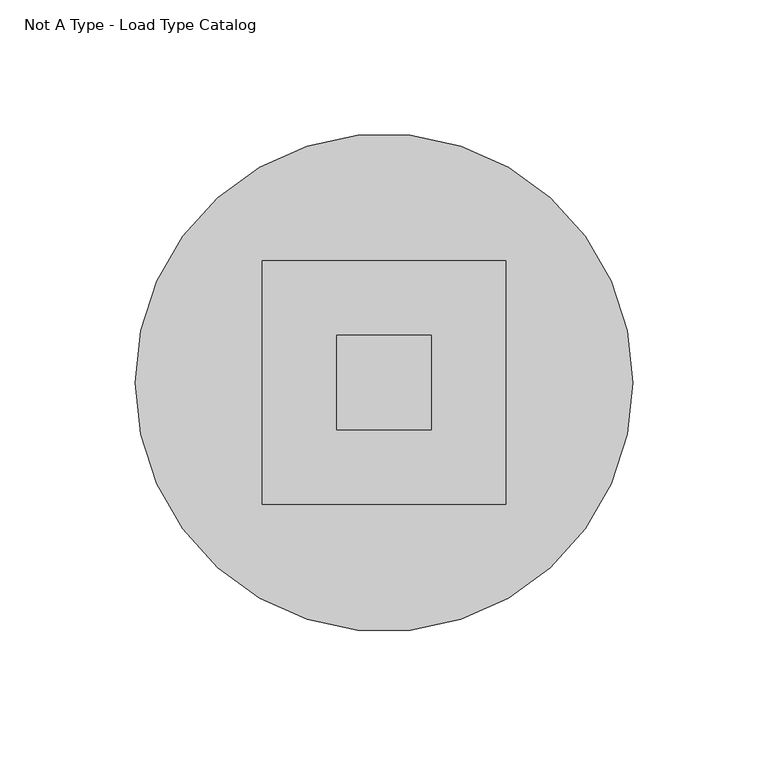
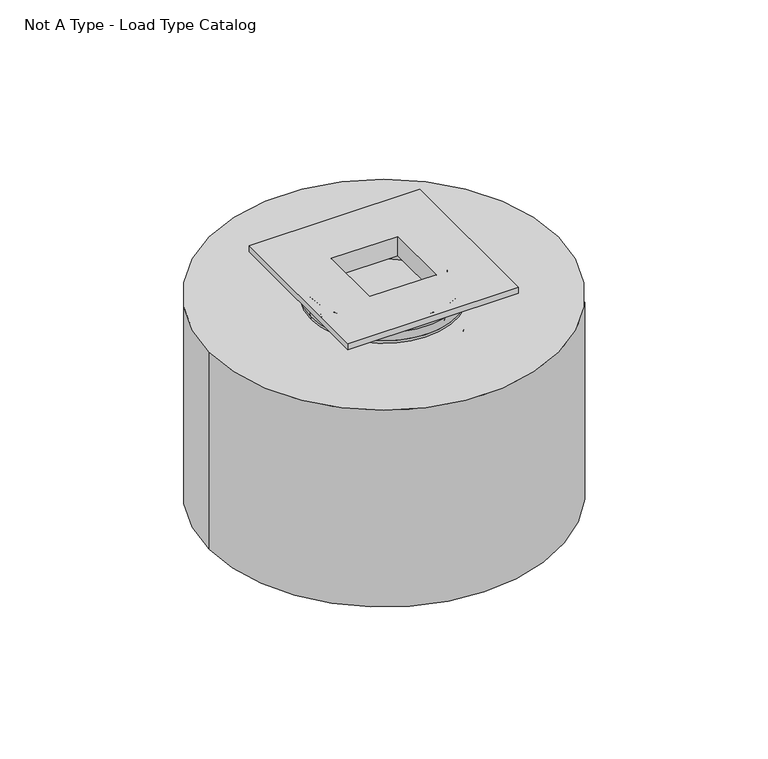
"""IFC4 building model written with IfcOpenShell, lengths in millimetres: flow terminal geometry, Lighting_Ceiling-Mounted_Lucent_Square_Edge_90 : Not A Type - Load Type Catalog."""

from ifc_helpers import new_model, si_unit, point, frame, origin, origin_2d, place, context, project, spatial, polyline, circle_curve, ellipse_curve, trimmed, segment, composite_curve, outline, extrude, faceted_brep, source, transform, mapped, element, save
from ifc_brep_helpers import plane_surface, cylinder_surface, revolved_surface, advanced_brep


def not_a_type_load_type_catalog_b4710a2c(model_context):
    return source(origin(), model_context, "Body", "SolidModel", [
        advanced_brep(
        [(-23.4724039, 0.0, -22.8655633), (23.4724039, 0.0, -22.8655633), (26.5, 0.0, -22.8655633), (-26.5, 0.0, -22.8655633), (-23.4724039, 0.0, -23.8655633), (23.4724039, 0.0, -23.8655633), (-25.5, 0.0, -23.8655633), (25.5, 0.0, -23.8655633), (-25.5, 0.0, -35.4), (25.5, 0.0, -35.4), (-26.95, 0.0, -35.4), (26.95, 0.0, -35.4), (-26.95, 0.0, -23.8655633), (26.95, 0.0, -23.8655633), (-38.4932571, 0.0, -23.3812343), (38.4932571, 0.0, -23.3812343), (37.1922508, 0.0, -27.9271739), (-37.1922508, 0.0, -27.9271739), (-38.4932571, 0.0, -11.6295756), (38.4932571, 0.0, -11.6295756), (-38.496505, 0.0, -7.1468124), (38.496505, 0.0, -7.1468124), (-38.496505, 0.0, -1.3969603), (38.496505, 0.0, -1.3969603), (-39.4934653, 0.0, -0.4), (39.4934653, 0.0, -0.4), (-43.5, 0.0, -0.4), (43.5, 0.0, -0.4), (-43.5, 0.0, 0.6), (43.5, 0.0, 0.6), (-29.0363195, 0.0, 0.6), (29.0363196, 0.0, 0.6), (-35.9998111, 0.0, -0.4), (35.9998111, 0.0, -0.4), (30.0103321, 0.0, -0.4), (-30.0103321, 0.0, -0.4), (-35.9998111, 0.0, -24.4), (35.9998111, 0.0, -24.4), (-37.4215064, 0.0, -24.4), (37.4215064, 0.0, -24.4), (-36.3566832, 0.0, -27.4050533), (36.3566832, 0.0, -27.4050533), (-30.0103321, 0.0, -23.8655633), (30.0103321, 0.0, -23.8655633), (-29.0363195, 0.0, -20.3292437), (29.0363196, 0.0, -20.3292437)],
        [
            (0, 1, circle_curve(frame((0.0, 0.0, -22.8655633), z_axis=(0.0, 0.0, -1.0), x_axis=(1.0, 0.0, 0.0)), 23.4724039)),
            (1, 2),
            (2, 3, circle_curve(frame((0.0, 0.0, -22.8655633), z_axis=(0.0, 0.0, 1.0), x_axis=(1.0, 0.0, 0.0)), 26.5)),
            (3, 0),
            (1, 0, circle_curve(frame((0.0, 0.0, -22.8655633), z_axis=(0.0, 0.0, -1.0), x_axis=(1.0, 0.0, 0.0)), 23.4724039)),
            (3, 2, circle_curve(frame((0.0, 0.0, -22.8655633), z_axis=(0.0, 0.0, 1.0), x_axis=(1.0, 0.0, 0.0)), 26.5)),
            (4, 5, circle_curve(frame((0.0, 0.0, -23.8655633), z_axis=(0.0, 0.0, -1.0), x_axis=(1.0, 0.0, 0.0)), 23.4724039)),
            (5, 1),
            (0, 4),
            (5, 4, circle_curve(frame((0.0, 0.0, -23.8655633), z_axis=(0.0, 0.0, -1.0), x_axis=(1.0, 0.0, 0.0)), 23.4724039)),
            (6, 7, circle_curve(frame((0.0, 0.0, -23.8655633), z_axis=(0.0, 0.0, -1.0), x_axis=(1.0, 0.0, 0.0)), 25.5)),
            (7, 5),
            (4, 6),
            (7, 6, circle_curve(frame((0.0, 0.0, -23.8655633), z_axis=(0.0, 0.0, -1.0), x_axis=(1.0, 0.0, 0.0)), 25.5)),
            (8, 9, circle_curve(frame((0.0, 0.0, -35.4), z_axis=(0.0, 0.0, -1.0), x_axis=(1.0, 0.0, 0.0)), 25.5)),
            (9, 7),
            (6, 8),
            (9, 8, circle_curve(frame((0.0, 0.0, -35.4), z_axis=(0.0, 0.0, -1.0), x_axis=(1.0, 0.0, 0.0)), 25.5)),
            (10, 11, circle_curve(frame((0.0, 0.0, -35.4), z_axis=(0.0, 0.0, -1.0), x_axis=(1.0, 0.0, 0.0)), 26.95)),
            (11, 9),
            (8, 10),
            (11, 10, circle_curve(frame((0.0, 0.0, -35.4), z_axis=(0.0, 0.0, -1.0), x_axis=(1.0, 0.0, 0.0)), 26.95)),
            (12, 13, circle_curve(frame((0.0, 0.0, -23.8655633), z_axis=(0.0, 0.0, -1.0), x_axis=(1.0, 0.0, 0.0)), 26.95)),
            (13, 11),
            (10, 12),
            (13, 12, circle_curve(frame((0.0, 0.0, -23.8655633), z_axis=(0.0, 0.0, -1.0), x_axis=(1.0, 0.0, 0.0)), 26.95)),
            (14, 15, circle_curve(frame((0.0, 0.0, -23.3812343), z_axis=(0.0, 0.0, -1.0), x_axis=(1.0, 0.0, 0.0)), 38.4932571)),
            (15, 16, circle_curve(frame((29.9006074, 0.0, -23.3812343), z_axis=(0.0, 1.0, 0.0), x_axis=(1.0, 0.0, 0.0)), 8.5926498)),
            (16, 17, circle_curve(frame((0.0, 0.0, -27.9271739), z_axis=(0.0, 0.0, 1.0), x_axis=(1.0, 0.0, 0.0)), 37.1922508)),
            (17, 14, circle_curve(frame((-29.9006074, 0.0, -23.3812343), z_axis=(0.0, 1.0, 0.0), x_axis=(-1.0, 0.0, 0.0)), 8.5926498)),
            (15, 14, circle_curve(frame((0.0, 0.0, -23.3812343), z_axis=(0.0, 0.0, -1.0), x_axis=(1.0, 0.0, 0.0)), 38.4932571)),
            (17, 16, circle_curve(frame((0.0, 0.0, -27.9271739), z_axis=(0.0, 0.0, 1.0), x_axis=(1.0, 0.0, 0.0)), 37.1922508)),
            (18, 19, circle_curve(frame((0.0, 0.0, -11.6295756), z_axis=(0.0, 0.0, -1.0), x_axis=(1.0, 0.0, 0.0)), 38.4932571)),
            (19, 15),
            (14, 18),
            (19, 18, circle_curve(frame((0.0, 0.0, -11.6295756), z_axis=(0.0, 0.0, -1.0), x_axis=(1.0, 0.0, 0.0)), 38.4932571)),
            (20, 21, circle_curve(frame((0.0, 0.0, -7.1468124), z_axis=(0.0, 0.0, -1.0), x_axis=(1.0, 0.0, 0.0)), 38.496505)),
            (21, 19, circle_curve(frame((33.8084064, 0.0, -9.3847986), z_axis=(0.0, 1.0, 0.0), x_axis=(1.0, 0.0, 0.0)), 5.194887)),
            (18, 20, circle_curve(frame((-33.8084064, 0.0, -9.3847986), z_axis=(0.0, 1.0, 0.0), x_axis=(-1.0, 0.0, 0.0)), 5.194887)),
            (21, 20, circle_curve(frame((0.0, 0.0, -7.1468124), z_axis=(0.0, 0.0, -1.0), x_axis=(1.0, 0.0, 0.0)), 38.496505)),
            (22, 23, circle_curve(frame((0.0, 0.0, -1.3969603), z_axis=(0.0, 0.0, -1.0), x_axis=(1.0, 0.0, 0.0)), 38.496505)),
            (23, 21),
            (20, 22),
            (23, 22, circle_curve(frame((0.0, 0.0, -1.3969603), z_axis=(0.0, 0.0, -1.0), x_axis=(1.0, 0.0, 0.0)), 38.496505)),
            (24, 25, circle_curve(frame((0.0, 0.0, -0.4), z_axis=(0.0, 0.0, -1.0), x_axis=(1.0, 0.0, 0.0)), 39.4934653)),
            (25, 23, circle_curve(frame((39.4934653, 0.0, -1.3969603), z_axis=(0.0, -1.0, 0.0), x_axis=(1.0, 0.0, 0.0)), 0.9969603)),
            (22, 24, circle_curve(frame((-39.4934653, 0.0, -1.3969603), z_axis=(0.0, -1.0, 0.0), x_axis=(-1.0, 0.0, 0.0)), 0.9969603)),
            (25, 24, circle_curve(frame((0.0, 0.0, -0.4), z_axis=(0.0, 0.0, -1.0), x_axis=(1.0, 0.0, 0.0)), 39.4934653)),
            (26, 27, circle_curve(frame((0.0, 0.0, -0.4), z_axis=(0.0, 0.0, -1.0), x_axis=(1.0, 0.0, 0.0)), 43.5)),
            (27, 25),
            (24, 26),
            (27, 26, circle_curve(frame((0.0, 0.0, -0.4), z_axis=(0.0, 0.0, -1.0), x_axis=(1.0, 0.0, 0.0)), 43.5)),
            (28, 29, circle_curve(frame((0.0, 0.0, 0.6), z_axis=(0.0, 0.0, -1.0), x_axis=(1.0, 0.0, 0.0)), 43.5)),
            (29, 27),
            (26, 28),
            (29, 28, circle_curve(frame((0.0, 0.0, 0.6), z_axis=(0.0, 0.0, -1.0), x_axis=(1.0, 0.0, 0.0)), 43.5)),
            (30, 31, circle_curve(frame((0.0, 0.0, 0.6), z_axis=(0.0, 0.0, -1.0), x_axis=(1.0, 0.0, 0.0)), 29.0363195)),
            (31, 29),
            (28, 30),
            (31, 30, circle_curve(frame((0.0, 0.0, 0.6), z_axis=(0.0, 0.0, -1.0), x_axis=(1.0, 0.0, 0.0)), 29.0363195)),
            (32, 33, circle_curve(frame((0.0, 0.0, -0.4), z_axis=(0.0, 0.0, -1.0), x_axis=(1.0, 0.0, 0.0)), 35.9998111)),
            (33, 34),
            (34, 35, circle_curve(frame((0.0, 0.0, -0.4), z_axis=(0.0, 0.0, 1.0), x_axis=(1.0, 0.0, 0.0)), 30.0103321)),
            (35, 32),
            (33, 32, circle_curve(frame((0.0, 0.0, -0.4), z_axis=(0.0, 0.0, -1.0), x_axis=(1.0, 0.0, 0.0)), 35.9998111)),
            (35, 34, circle_curve(frame((0.0, 0.0, -0.4), z_axis=(0.0, 0.0, 1.0), x_axis=(1.0, 0.0, 0.0)), 30.0103321)),
            (36, 37, circle_curve(frame((0.0, 0.0, -24.4), z_axis=(0.0, 0.0, -1.0), x_axis=(1.0, 0.0, 0.0)), 35.9998111)),
            (37, 33),
            (32, 36),
            (37, 36, circle_curve(frame((0.0, 0.0, -24.4), z_axis=(0.0, 0.0, -1.0), x_axis=(1.0, 0.0, 0.0)), 35.9998111)),
            (38, 39, circle_curve(frame((0.0, 0.0, -24.4), z_axis=(0.0, 0.0, -1.0), x_axis=(1.0, 0.0, 0.0)), 37.4215064)),
            (39, 37),
            (36, 38),
            (39, 38, circle_curve(frame((0.0, 0.0, -24.4), z_axis=(0.0, 0.0, -1.0), x_axis=(1.0, 0.0, 0.0)), 37.4215064)),
            (40, 41, circle_curve(frame((0.0, 0.0, -27.4050533), z_axis=(0.0, 0.0, -1.0), x_axis=(1.0, 0.0, 0.0)), 36.3566832)),
            (41, 39, circle_curve(frame((29.9719685, 0.0, -23.451483), z_axis=(0.0, -1.0, 0.0), x_axis=(1.0, 0.0, 0.0)), 7.5096805)),
            (38, 40, circle_curve(frame((-29.9719685, 0.0, -23.451483), z_axis=(0.0, -1.0, 0.0), x_axis=(-1.0, 0.0, 0.0)), 7.5096805)),
            (41, 40, circle_curve(frame((0.0, 0.0, -27.4050533), z_axis=(0.0, 0.0, -1.0), x_axis=(1.0, 0.0, 0.0)), 36.3566832)),
            (16, 41),
            (40, 17),
            (42, 43, circle_curve(frame((0.0, 0.0, -23.8655633), z_axis=(0.0, 0.0, -1.0), x_axis=(1.0, 0.0, 0.0)), 30.0103321)),
            (43, 13),
            (12, 42),
            (43, 42, circle_curve(frame((0.0, 0.0, -23.8655633), z_axis=(0.0, 0.0, -1.0), x_axis=(1.0, 0.0, 0.0)), 30.0103321)),
            (34, 43),
            (42, 35),
            (44, 45, circle_curve(frame((0.0, 0.0, -20.3292437), z_axis=(0.0, 0.0, -1.0), x_axis=(1.0, 0.0, 0.0)), 29.0363195)),
            (45, 31),
            (30, 44),
            (45, 44, circle_curve(frame((0.0, 0.0, -20.3292437), z_axis=(0.0, 0.0, -1.0), x_axis=(1.0, 0.0, 0.0)), 29.0363195)),
            (2, 45, circle_curve(frame((26.5, 0.0, -20.3292437), z_axis=(0.0, -1.0, 0.0), x_axis=(1.0, 0.0, 0.0)), 2.5363195)),
            (44, 3, circle_curve(frame((-26.5, 0.0, -20.3292437), z_axis=(0.0, -1.0, 0.0), x_axis=(-1.0, 0.0, 0.0)), 2.5363195)),
        ],
        [
            plane_surface(frame((0.0, 0.0, -22.8655633), z_axis=(0.0, 0.0, 1.0), x_axis=(1.0, 0.0, 0.0))),
            revolved_surface(polyline([(23.4724039, 0.0, -22.8655633), (23.4724039, 0.0, -23.8655633)]), (0.0, 0.0, 26.7117569), (0.0, 0.0, 1.0)),
            plane_surface(frame((0.0, 0.0, -23.8655633), z_axis=(0.0, 0.0, -1.0), x_axis=(1.0, 0.0, 0.0))),
            revolved_surface(polyline([(25.5, 0.0, -23.8655633), (25.5, 0.0, -35.400000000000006)]), (0.0, 0.0, 26.7117569), (0.0, 0.0, 1.0)),
            plane_surface(frame((0.0, 0.0, -35.4), z_axis=(0.0, 0.0, -1.0), x_axis=(1.0, 0.0, 0.0))),
            cylinder_surface(frame((0.0, 0.0, 26.7117569), z_axis=(0.0, 0.0, 1.0), x_axis=(1.0, 0.0, 0.0)), 26.95),
            revolved_surface(trimmed(ellipse_curve(frame((29.9006074, 0.0, -23.3812343), z_axis=(0.0, -1.0, 0.0), x_axis=(1.0, 0.0, 0.0)), 8.5926498, 8.5926498), [point((37.1922508, 0.0, -27.9271739))], [point((38.4932571, 0.0, -23.3812343))], True, "CARTESIAN"), (0.0, 0.0, 26.7117569), (0.0, 0.0, 1.0)),
            cylinder_surface(frame((0.0, 0.0, 26.7117569), z_axis=(0.0, 0.0, 1.0), x_axis=(1.0, 0.0, 0.0)), 38.4932571),
            revolved_surface(trimmed(ellipse_curve(frame((33.8084064, 0.0, -9.3847986), z_axis=(0.0, -1.0, 0.0), x_axis=(1.0, 0.0, 0.0)), 5.194887, 5.194887), [point((38.4932571, 0.0, -11.6295756))], [point((38.496505, 0.0, -7.1468124))], True, "CARTESIAN"), (0.0, 0.0, 26.7117569), (0.0, 0.0, 1.0)),
            cylinder_surface(frame((0.0, 0.0, 26.7117569), z_axis=(0.0, 0.0, 1.0), x_axis=(1.0, 0.0, 0.0)), 38.496505),
            revolved_surface(trimmed(ellipse_curve(frame((39.4934653, 0.0, -1.3969603), z_axis=(0.0, 1.0, 0.0), x_axis=(1.0, 0.0, 0.0)), 0.9969603, 0.9969603), [point((38.496505, 0.0, -1.3969603))], [point((39.4934653, 0.0, -0.4))], True, "CARTESIAN"), (0.0, 0.0, 26.7117569), (0.0, 0.0, 1.0)),
            plane_surface(frame((0.0, 0.0, -0.4), z_axis=(0.0, 0.0, -1.0), x_axis=(1.0, 0.0, 0.0))),
            cylinder_surface(frame((0.0, 0.0, 26.7117569), z_axis=(0.0, 0.0, 1.0), x_axis=(1.0, 0.0, 0.0)), 43.5),
            plane_surface(frame((0.0, 0.0, 0.6), z_axis=(0.0, 0.0, 1.0), x_axis=(1.0, 0.0, 0.0))),
            revolved_surface(polyline([(35.9998111, 0.0, -0.3999999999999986), (35.9998111, 0.0, -24.400000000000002)]), (0.0, 0.0, 26.7117569), (0.0, 0.0, 1.0)),
            plane_surface(frame((0.0, 0.0, -24.4), z_axis=(0.0, 0.0, -1.0), x_axis=(1.0, 0.0, 0.0))),
            revolved_surface(trimmed(ellipse_curve(frame((29.9719685, 0.0, -23.451483), z_axis=(0.0, 1.0, 0.0), x_axis=(1.0, 0.0, 0.0)), 7.5096805, 7.5096805), [point((37.4215064, 0.0, -24.4))], [point((36.3566832, 0.0, -27.4050533))], True, "CARTESIAN"), (0.0, 0.0, 26.7117569), (0.0, 0.0, 1.0)),
            revolved_surface(polyline([(36.3566832, 0.0, -27.4050533), (37.1922508, 0.0, -27.9271739)]), (0.0, 0.0, 26.7117569), (0.0, 0.0, 1.0)),
            cylinder_surface(frame((0.0, 0.0, 26.7117569), z_axis=(0.0, 0.0, 1.0), x_axis=(1.0, 0.0, 0.0)), 30.0103321),
            revolved_surface(polyline([(29.0363195, 0.0, 0.6000000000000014), (29.0363195, 0.0, -20.329243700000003)]), (0.0, 0.0, 26.7117569), (0.0, 0.0, 1.0)),
            revolved_surface(trimmed(ellipse_curve(frame((26.5, 0.0, -20.3292437), z_axis=(0.0, 1.0, 0.0), x_axis=(1.0, 0.0, 0.0)), 2.5363195, 2.5363195), [point((29.0363196, 0.0, -20.3292437))], [point((26.5, 0.0, -22.8655633))], True, "CARTESIAN"), (0.0, 0.0, 26.7117569), (0.0, 0.0, 1.0)),
        ],
        [
            (0, [[1, 2, 3, 4]]),
            (0, [[5, -4, 6, -2]]),
            (1, [[7, 8, -1, 9]]),
            (1, [[10, -9, -5, -8]]),
            (2, [[11, 12, -7, 13]]),
            (2, [[14, -13, -10, -12]]),
            (3, [[15, 16, -11, 17]]),
            (3, [[18, -17, -14, -16]]),
            (4, [[19, 20, -15, 21]]),
            (4, [[22, -21, -18, -20]]),
            (5, [[23, 24, -19, 25]]),
            (5, [[26, -25, -22, -24]]),
            (6, [[27, 28, 29, 30]]),
            (6, [[31, -30, 32, -28]]),
            (7, [[33, 34, -27, 35]]),
            (7, [[36, -35, -31, -34]]),
            (8, [[37, 38, -33, 39]]),
            (8, [[40, -39, -36, -38]]),
            (9, [[41, 42, -37, 43]]),
            (9, [[44, -43, -40, -42]]),
            (10, [[45, 46, -41, 47]]),
            (10, [[48, -47, -44, -46]]),
            (11, [[49, 50, -45, 51]]),
            (11, [[52, -51, -48, -50]]),
            (12, [[53, 54, -49, 55]]),
            (12, [[56, -55, -52, -54]]),
            (13, [[57, 58, -53, 59]]),
            (13, [[60, -59, -56, -58]]),
            (11, [[61, 62, 63, 64]]),
            (11, [[65, -64, 66, -62]]),
            (14, [[67, 68, -61, 69]]),
            (14, [[70, -69, -65, -68]]),
            (15, [[71, 72, -67, 73]]),
            (15, [[74, -73, -70, -72]]),
            (16, [[75, 76, -71, 77]]),
            (16, [[78, -77, -74, -76]]),
            (17, [[-29, 79, -75, 80]]),
            (17, [[-32, -80, -78, -79]]),
            (2, [[81, 82, -23, 83]]),
            (2, [[84, -83, -26, -82]]),
            (18, [[-63, 85, -81, 86]]),
            (18, [[-66, -86, -84, -85]]),
            (19, [[87, 88, -57, 89]]),
            (19, [[90, -89, -60, -88]]),
            (20, [[-3, 91, -87, 92]]),
            (20, [[-6, -92, -90, -91]]),
        ],
    ),
        extrude(outline(composite_curve([segment(trimmed(circle_curve(origin_2d(), 92.0), [point((-92.0, 0.0))], [point((92.0, 0.0))], False, "CARTESIAN"), True, "CONTINUOUS"), segment(trimmed(circle_curve(origin_2d(), 92.0), [point((92.0, 0.0))], [point((-92.0, 0.0))], False, "CARTESIAN"), True, "CONTINUOUS")], self_intersect=False)), frame((0.0, 0.0, -122.7), z_axis=(0.0, 0.0, 1.0), x_axis=(1.0, 0.0, 0.0)), (0.0, 0.0, 1.0), 110.0),
        faceted_brep([(20.5015906, 20.5, -7.68125), (20.5015906, -20.5, -7.68125), (-20.5015906, -20.5, -7.68125), (-20.5015906, 20.5, -7.68125), (17.5, 17.5, -7.68125), (-17.5, 17.5, -7.68125), (-17.5, -17.5, -7.68125), (17.5, -17.5, -7.68125), (17.5, -17.5, 3.0), (17.5, 17.5, 3.0), (-17.5, -17.5, 3.0), (-17.5, 17.5, 3.0), (-20.5015906, 20.5, -0.4), (20.5015906, 20.5, -0.4), (-20.5015906, -20.5, -0.4), (20.5015906, -20.5, -0.4), (-45.0, 45.0, 3.0), (-45.0, -45.0, 3.0), (45.0, -45.0, 3.0), (45.0, 45.0, 3.0), (-45.0, 45.0, -0.4), (45.0, 45.0, -0.4), (45.0, -45.0, -0.4), (-45.0, -45.0, -0.4)], [[[0, 1, 2, 3], [4, 5, 6, 7]], [[4, 7, 8, 9]], [[8, 7, 6, 10]], [[10, 6, 5, 11]], [[11, 5, 4, 9]], [[0, 3, 12, 13]], [[3, 2, 14, 12]], [[2, 1, 15, 14]], [[1, 0, 13, 15]], [[16, 17, 18, 19], [11, 9, 8, 10]], [[20, 21, 22, 23], [13, 12, 14, 15]], [[17, 16, 20, 23]], [[18, 17, 23, 22]], [[19, 18, 22, 21]], [[16, 19, 21, 20]]]),
    ])


if __name__ == "__main__":
    model = new_model("IFC4")
    model_context = context("Model", 3, world=origin())
    ifc_project = project(units=[si_unit("LENGTHUNIT", "METRE", prefix="MILLI")], contexts=[model_context])
    site = spatial("IfcSite", under=ifc_project)
    building = spatial("IfcBuilding", under=site)
    placement = place(None, origin())
    not_a_type_load_type_catalog_shape = not_a_type_load_type_catalog_b4710a2c(model_context)
    element("IfcFlowTerminal", 1, ObjectType="Lighting_Ceiling-Mounted_Lucent_Square_Edge_90 : Not A Type - Load Type Catalog", at=placement, inside=building, context=model_context, shape_type="MappedRepresentation", body=[
        mapped(not_a_type_load_type_catalog_shape, transform((0.0, 0.0, 0.0), x_axis=(1.0, 0.0, 0.0), y_axis=(0.0, 1.0, 0.0), z_axis=(0.0, 0.0, 1.0))),
    ])
    save(model, "model.ifc")
